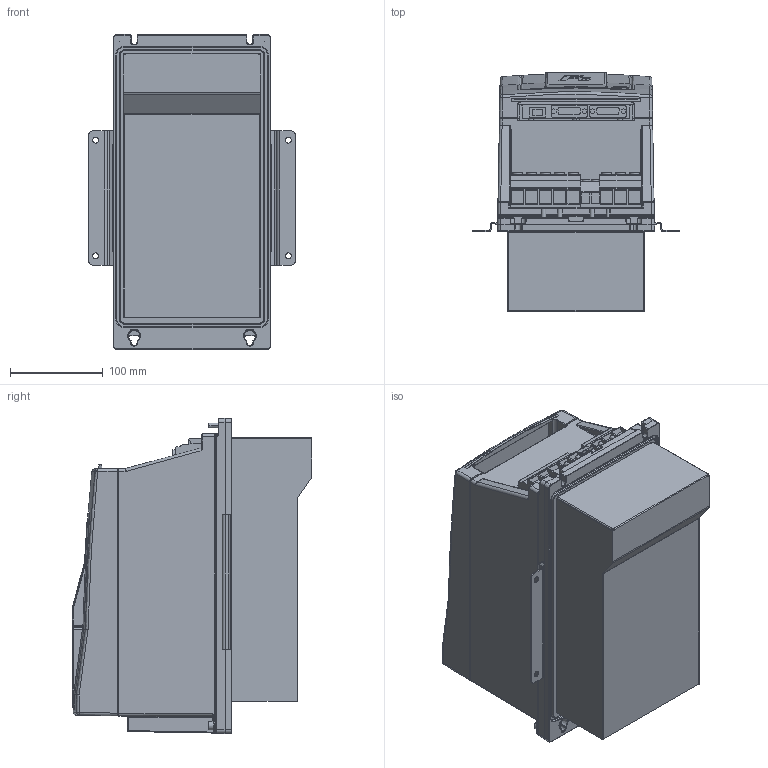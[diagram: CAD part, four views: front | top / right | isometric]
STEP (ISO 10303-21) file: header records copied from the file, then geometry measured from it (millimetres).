
FILE_DESCRIPTION (( 'STEP AP214' ), '1' );
FILE_NAME ('Housing F6-3 TR5-K000.STEP', '2020-11-12T10:45:31', ( '' ), ( '' ), 'SwSTEP 2.0', 'SolidWorks 2019', '' );
FILE_SCHEMA (( 'AUTOMOTIVE_DESIGN' ));
Length unit declared in the file: millimetre
Products named in the file (9): Housing F6-3 TR5-K000; 10051470_000_Leistungsteil TR5 (Kundenmodell); 10058413_000; 10059764_000_Blindabdeckung (Kundenmodell); 10060393_000; 10040482_000_Kundenmodell; 10060358_000; 10059765_000; 10035735_000_Kundenmodell
Assembly tree (8 placements, depth 4):
  Housing F6-3 TR5-K000
    10051470_000_Leistungsteil TR5 (Kundenmodell)
      10060358_000
    10040482_000_Kundenmodell
      10060393_000
    10035735_000_Kundenmodell
      10059764_000_Blindabdeckung (Kundenmodell)
        10059765_000
      10058413_000
Bounding box: 223 x 258.4 x 340 mm (x, y, z)
Volume: 10540155.2 mm3; surface area: 629752.3 mm2
Topology: 11 solids, 14 shells, 1859 faces, 4679 edges, 2867 vertices
Faces by surface type: plane 776, cylinder 569, bspline 305, torus 90, cone 69, sphere 50
Entity records: 62638 total; most frequent: CARTESIAN_POINT 20597, ORIENTED_EDGE 9230, DIRECTION 8018, EDGE_CURVE 4615, VERTEX_POINT 2867, AXIS2_PLACEMENT_3D 2786, LINE 2446, VECTOR 2446
